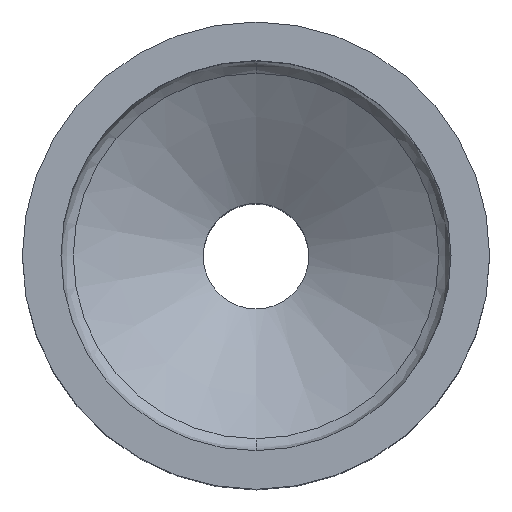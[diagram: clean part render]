
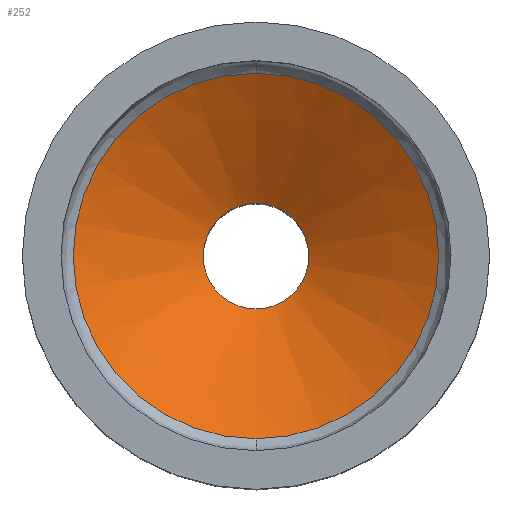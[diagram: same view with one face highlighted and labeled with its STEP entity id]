
A CAD part, top view. The second image highlights one B-rep face of the part: STEP entity #252.
In plain terms, the highlighted conical face has half-angle 60 degrees and reference radius 2.15 mm.
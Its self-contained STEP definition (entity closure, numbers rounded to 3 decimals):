
#17 = CARTESIAN_POINT ( 'NONE',  ( 0., 2.15, -11.426 ) ) ;
#18 = VERTEX_POINT ( 'NONE', #17 ) ;
#29 = CARTESIAN_POINT ( 'NONE',  ( 0., 7.45, -8.366 ) ) ;
#30 = CARTESIAN_POINT ( 'NONE',  ( 0., -7.45, -8.366 ) ) ;
#75 = AXIS2_PLACEMENT_3D ( 'NONE', #338, #337, #336 ) ;
#81 = AXIS2_PLACEMENT_3D ( 'NONE', #365, #364, #363 ) ;
#89 = AXIS2_PLACEMENT_3D ( 'NONE', #348, #347, #346 ) ;
#194 = DIRECTION ( 'NONE',  ( 1., 0., 0. ) ) ;
#195 = DIRECTION ( 'NONE',  ( 0., 0., 1. ) ) ;
#196 = CARTESIAN_POINT ( 'NONE',  ( 0., 0., -11.426 ) ) ;
#231 = EDGE_CURVE ( 'NONE', #18, #18, #278, .T. ) ;
#236 = EDGE_CURVE ( 'NONE', #477, #476, #282, .T. ) ;
#239 = EDGE_CURVE ( 'NONE', #476, #477, #285, .T. ) ;
#252 = ADVANCED_FACE ( 'NONE', ( #570, #568 ), #295, .F. ) ;
#278 = CIRCLE ( 'NONE', #81, 2.15 ) ;
#282 = CIRCLE ( 'NONE', #89, 7.45 ) ;
#285 = CIRCLE ( 'NONE', #75, 7.45 ) ;
#295 = CONICAL_SURFACE ( 'NONE', #566, 2.15, 1.047 ) ;
#336 = DIRECTION ( 'NONE',  ( 1., 0., 0. ) ) ;
#337 = DIRECTION ( 'NONE',  ( 0., 0., 1. ) ) ;
#338 = CARTESIAN_POINT ( 'NONE',  ( 0., 0., -8.366 ) ) ;
#346 = DIRECTION ( 'NONE',  ( 1., 0., 0. ) ) ;
#347 = DIRECTION ( 'NONE',  ( 0., 0., 1. ) ) ;
#348 = CARTESIAN_POINT ( 'NONE',  ( 0., 0., -8.366 ) ) ;
#363 = DIRECTION ( 'NONE',  ( 0., 1., 0. ) ) ;
#364 = DIRECTION ( 'NONE',  ( 0., 0., -1. ) ) ;
#365 = CARTESIAN_POINT ( 'NONE',  ( 0., 0., -11.426 ) ) ;
#413 = EDGE_LOOP ( 'NONE', ( #455, #466 ) ) ;
#414 = EDGE_LOOP ( 'NONE', ( #469 ) ) ;
#455 = ORIENTED_EDGE ( 'NONE', *, *, #236, .T. ) ;
#466 = ORIENTED_EDGE ( 'NONE', *, *, #239, .T. ) ;
#469 = ORIENTED_EDGE ( 'NONE', *, *, #231, .T. ) ;
#476 = VERTEX_POINT ( 'NONE', #30 ) ;
#477 = VERTEX_POINT ( 'NONE', #29 ) ;
#566 = AXIS2_PLACEMENT_3D ( 'NONE', #196, #195, #194 ) ;
#568 = FACE_BOUND ( 'NONE', #414, .T. ) ;
#570 = FACE_OUTER_BOUND ( 'NONE', #413, .T. ) ;
